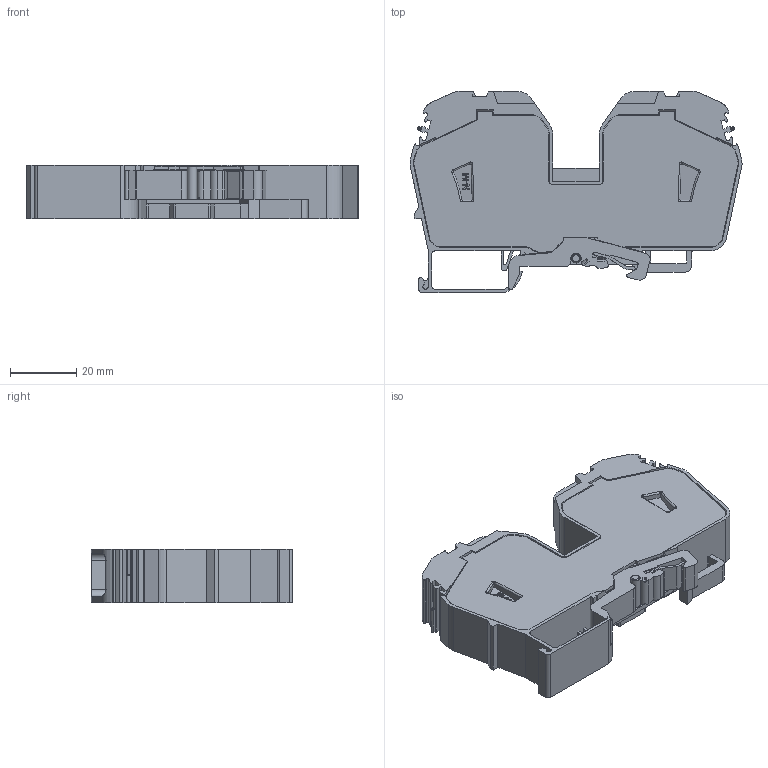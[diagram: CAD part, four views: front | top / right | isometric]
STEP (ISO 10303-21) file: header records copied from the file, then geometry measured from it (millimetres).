
FILE_DESCRIPTION (( 'STEP AP203' ), '1' );
FILE_NAME ('ﾊﾏﾐ1-35ﾂ-2ﾂ-ﾐﾅ.STEP', '2019-03-04T09:04:53', ( '' ), ( '' ), 'SwSTEP 2.0', 'SolidWorks 2016', '' );
FILE_SCHEMA (( 'CONFIG_CONTROL_DESIGN' ));
Products named in the file (1): ﾊﾏﾐ1-35ﾂ-2ﾂ-ﾐﾅ
Bounding box: 99.99 x 60.6 x 16 mm (x, y, z)
Volume: 38622.5 mm3; surface area: 51889.3 mm2
Topology: 10 solids, 10 shells, 1645 faces, 4530 edges, 2934 vertices
Faces by surface type: plane 940, cylinder 516, torus 76, bspline 60, cone 41, sphere 12
Full cylindrical faces by diameter (mm): 2.06 x8, 2.26 x8, 2.3 x8, 2.8 x1, 3.9 x4
Entity records: 54742 total; most frequent: CARTESIAN_POINT 13608, ORIENTED_EDGE 8862, DIRECTION 8169, EDGE_CURVE 4431, VECTOR 2969, LINE 2969, VERTEX_POINT 2927, AXIS2_PLACEMENT_3D 2600
